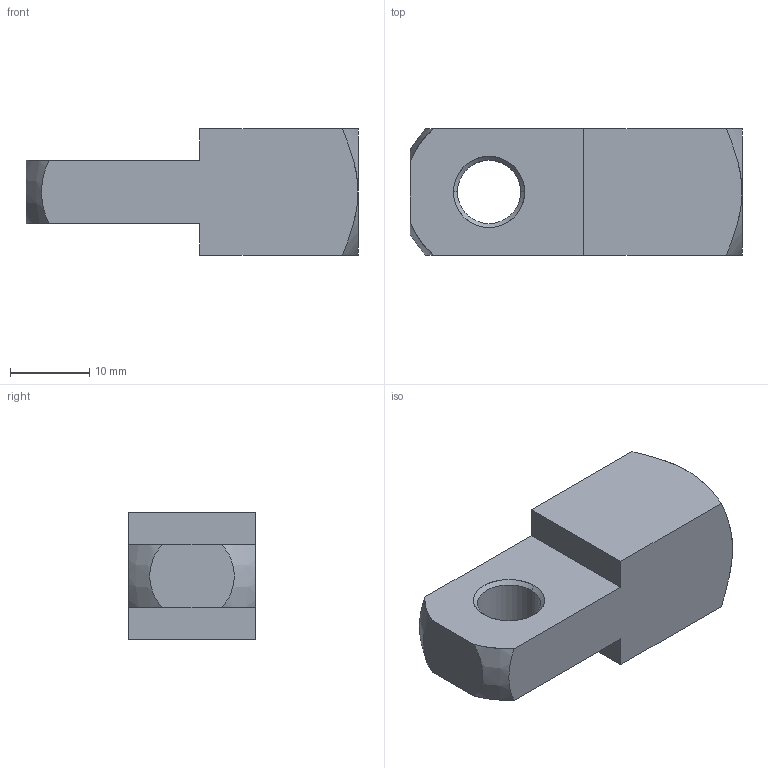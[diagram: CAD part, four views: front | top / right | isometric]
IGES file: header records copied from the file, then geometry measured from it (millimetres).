
Start section: SolidWorks IGES file using analytic representation for surfaces
Global section: file name: C:\Documents and Settings\IANO\My Documents\Wix and Auto CAD Work\CAD Models\Parametric Models\Wix Models\60000\65652_v2\65652_v2_IGES\65652.W0008.igs; native system: SolidWorks 2009; preprocessor: SolidWorks 2009; author: IANO; date: 140122.120836; units: millimetre
Bounding box: 42 x 16 x 16 mm (x, y, z)
Surface area: 3285.5 mm2 (no closed solid volume)
Topology: 0 solids, 0 shells, 31 faces, 460 edges, 458 vertices
Faces by surface type: revolution 18, bspline 13
